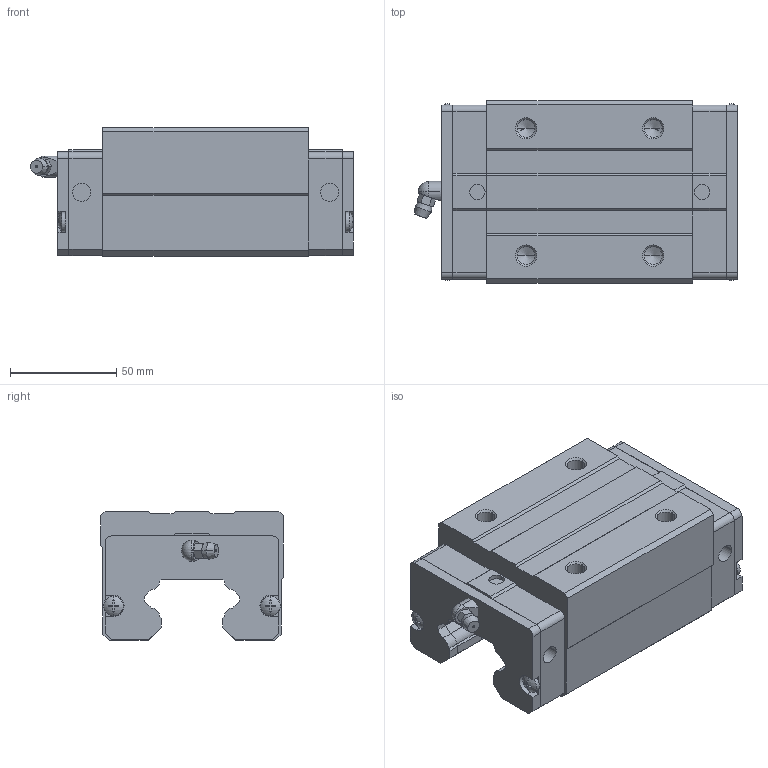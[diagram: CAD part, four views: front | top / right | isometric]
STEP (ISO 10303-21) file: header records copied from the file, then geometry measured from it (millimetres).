
FILE_DESCRIPTION(('starvars output'),'2;1');
FILE_NAME('cv20190617061247000042334.stp','06:12:48 2019/06/17',( 'Thomas Industrial Network Germany GmbH'),( 'Thomas Industrial Network Germany GmbH'),'unknown preprocess','ACIS' ,'unknown authorization');
FILE_SCHEMA(('CONFIG_CONTROL_DESIGN {UNKNOWN IMPLEMENTATION LEVEL}'));
Length unit declared in the file: millimetre
Products named in the file (10): PRODUCT_ID_1; PRODUCT_ID_2; PRODUCT_ID_3; PRODUCT_ID_4; PRODUCT_ID_5; PRODUCT_ID_6; PRODUCT_ID_7; PRODUCT_ID_8; PRODUCT_ID_9; PRODUCT_ID_10
Bounding box: 152.3 x 86 x 60.8 mm (x, y, z)
Volume: 519535.1 mm3; surface area: 86275.7 mm2
Topology: 10 solids, 10 shells, 400 faces, 1017 edges, 643 vertices
Faces by surface type: plane 244, cylinder 74, cone 70, sphere 12
Entity records: 11534 total; most frequent: ORIENTED_EDGE 2010, CARTESIAN_POINT 1899, DIRECTION 1587, EDGE_CURVE 1005, VERTEX_POINT 643, VECTOR 637, LINE 637, AXIS2_PLACEMENT_3D 475
